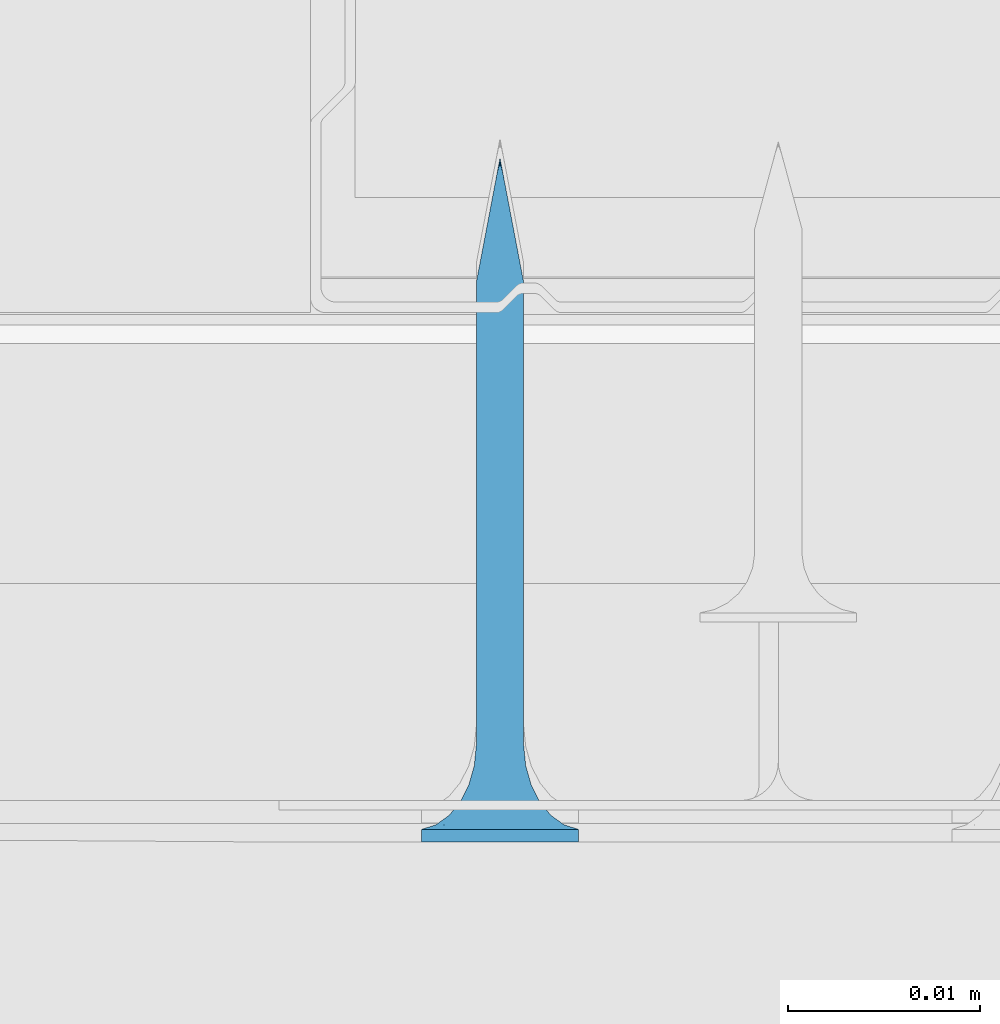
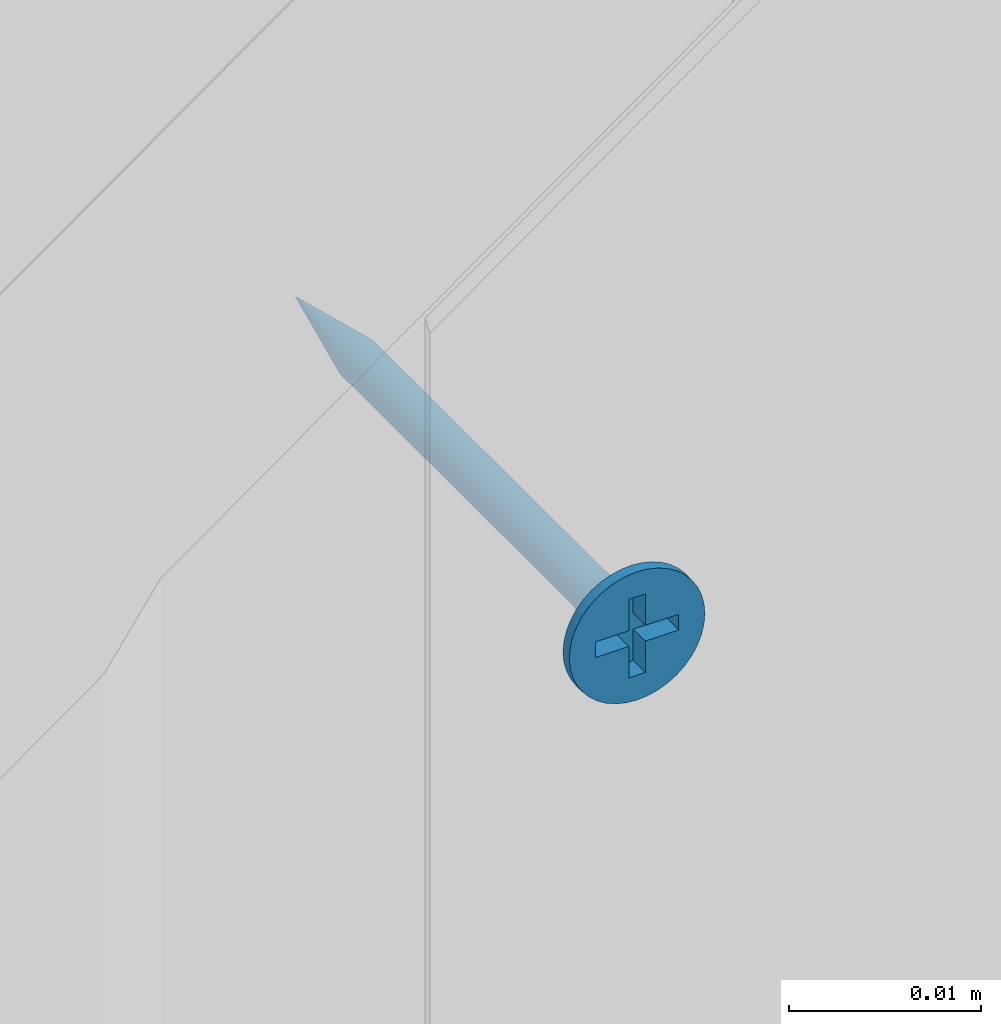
# One storey, part 19 of 37: 1 wall.
"""IFC2X3 building model written with IfcOpenShell, lengths in millimetres."""

from ifc_helpers import new_model, entity, si_unit, converted_unit, direction, frame, origin, origin_with_axes, place, context, project, spatial, faceted_brep, element, save


model = new_model("IFC2X3")

# Units and contexts
model_context = context("Model", 3, precision=1e-05, world=origin(), true_north=direction((0.0, 1.0, 0.0)))
ifc_project = project(units=[si_unit("LENGTHUNIT", "METRE", prefix="MILLI"), si_unit("AREAUNIT", "SQUARE_METRE"), si_unit("VOLUMEUNIT", "CUBIC_METRE"), converted_unit("PLANEANGLEUNIT", "DEGREE", entity("IfcPlaneAngleMeasure", 0.01745), si_unit("PLANEANGLEUNIT", "RADIAN"), dimensions=[0, 0, 0, 0, 0, 0, 0]), si_unit("SOLIDANGLEUNIT", "STERADIAN"), si_unit("MASSUNIT", "GRAM"), si_unit("TIMEUNIT", "SECOND"), si_unit("THERMODYNAMICTEMPERATUREUNIT", "DEGREE_CELSIUS"), si_unit("LUMINOUSINTENSITYUNIT", "LUMEN")], contexts=[model_context])

# Site, building, storey
site_placement = place(None, origin_with_axes())
site = spatial("IfcSite", under=ifc_project, at=site_placement, Name="Default Site", CompositionType="ELEMENT")
building_placement = place(site_placement, origin_with_axes())
building = spatial("IfcBuilding", under=site, at=building_placement, Name="Default Building", CompositionType="ELEMENT")
storey_placement = place(building_placement, origin_with_axes())
storey = spatial("IfcBuildingStorey", under=building, at=storey_placement, Name="Default Building Storey", CompositionType="ELEMENT", Elevation=0.0)

# Wall
wall_placement = place(storey_placement, frame((2770.206542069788, 6778.478129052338, 103.0621105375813), z_axis=(0.0, 0.0, 1.0), x_axis=(1.0, 4.718447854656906e-16, 0.0)))
element("IfcWall", 1, at=wall_placement, inside=storey, Name="Wkręt RIGIPS TN 35", context=model_context, shape_type="Brep", body=[
    faceted_brep([(-141.5377463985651, -4832.598051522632, 555.8000000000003), (-141.5377463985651, -4833.259713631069, 555.8000000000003), (-141.4875329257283, -4833.259713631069, 555.1619773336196), (-141.4875329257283, -4832.598051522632, 555.1619773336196), (-141.3381289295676, -4833.259713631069, 554.5396649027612), (-141.3381289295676, -4832.598051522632, 554.5396649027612), (-141.0932132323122, -4833.259713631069, 553.9483861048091), (-141.0932132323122, -4832.598051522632, 553.9483861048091), (-140.7588164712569, -4833.259713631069, 553.4027001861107), (-140.7588164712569, -4832.598051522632, 553.4027001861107), (-140.3431726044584, -4833.259713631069, 552.9160437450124), (-140.4541727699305, -4832.598051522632, 553.0314907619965), (-140.1080097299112, -4832.598051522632, 552.6986614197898), (-139.8565161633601, -4833.259713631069, 552.5003998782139), (-139.7251262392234, -4832.598051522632, 552.4088262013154), (-139.3108302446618, -4833.259713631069, 552.1660031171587), (-139.3108302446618, -4832.598051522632, 552.1660031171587), (-138.8708651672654, -4832.598051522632, 551.9735584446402), (-138.7195514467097, -4833.259713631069, 551.9210874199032), (-138.4113302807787, -4832.598051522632, 551.8341600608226), (-137.9385961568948, -4832.598051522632, 551.7497404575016), (-138.0972390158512, -4833.259713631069, 551.7716834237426), (-137.4592163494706, -4833.259713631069, 551.7214699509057), (-137.4592163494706, -4832.598051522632, 551.7214699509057), (-136.8211936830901, -4833.259713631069, 551.7716834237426), (-136.8211936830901, -4832.598051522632, 551.7716834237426), (-136.1988812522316, -4833.259713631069, 551.9210874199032), (-136.1988812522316, -4832.598051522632, 551.9210874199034), (-135.6076024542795, -4833.259713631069, 552.1660031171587), (-135.6076024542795, -4832.598051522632, 552.1660031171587), (-135.0619165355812, -4833.259713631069, 552.5003998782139), (-135.0619165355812, -4832.598051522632, 552.5003998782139), (-134.5752600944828, -4833.259713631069, 552.9160437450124), (-134.5752600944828, -4832.598051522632, 552.9160437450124), (-134.1596162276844, -4833.259713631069, 553.4027001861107), (-134.1596162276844, -4832.598051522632, 553.4027001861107), (-133.8252194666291, -4833.259713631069, 553.9483861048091), (-133.8252194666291, -4832.598051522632, 553.9483861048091), (-133.5803037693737, -4833.259713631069, 554.5396649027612), (-133.5803037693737, -4832.598051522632, 554.5396649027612), (-133.430899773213, -4833.259713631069, 556.4380226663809), (-133.430899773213, -4832.598051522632, 556.4380226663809), (-133.3806863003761, -4832.598051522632, 555.8000000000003), (-133.3806863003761, -4833.259713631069, 555.8000000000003), (-133.430899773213, -4832.598051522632, 555.1619773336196), (-133.430899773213, -4833.259713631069, 555.1619773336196), (-133.5803037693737, -4833.259713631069, 557.0603350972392), (-133.5803037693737, -4832.598051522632, 557.0603350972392), (-133.8252194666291, -4833.259713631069, 557.6516138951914), (-133.8252194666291, -4832.598051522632, 557.6516138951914), (-134.1596162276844, -4833.259713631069, 558.1972998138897), (-134.1596162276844, -4832.598051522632, 558.1972998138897), (-134.5752600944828, -4833.259713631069, 558.683956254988), (-134.5752600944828, -4832.598051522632, 558.683956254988), (-135.0619165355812, -4833.259713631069, 559.0996001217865), (-135.0619165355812, -4832.598051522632, 559.0996001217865), (-135.6076024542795, -4833.259713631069, 559.4339968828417), (-135.6076024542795, -4832.598051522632, 559.4339968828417), (-136.1988812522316, -4833.259713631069, 559.6789125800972), (-136.1988812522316, -4832.598051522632, 559.6789125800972), (-136.8211936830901, -4833.259713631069, 559.8283165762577), (-136.8211936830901, -4832.598051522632, 559.8283165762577), (-137.4592163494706, -4833.259713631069, 559.8785300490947), (-137.4592163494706, -4832.598051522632, 559.8785300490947), (-138.0972390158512, -4833.259713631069, 559.8283165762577), (-138.0972390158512, -4832.598051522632, 559.8283165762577), (-138.7195514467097, -4833.259713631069, 559.6789125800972), (-138.7195514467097, -4832.598051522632, 559.6789125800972), (-139.3108302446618, -4833.259713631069, 559.4339968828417), (-139.3108302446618, -4832.598051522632, 559.4339968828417), (-139.8565161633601, -4833.259713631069, 559.0996001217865), (-139.8565161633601, -4832.598051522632, 559.0996001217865), (-140.3431726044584, -4833.259713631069, 558.683956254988), (-140.3431726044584, -4832.598051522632, 558.683956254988), (-140.7588164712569, -4833.259713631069, 558.1972998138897), (-140.7588164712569, -4832.598051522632, 558.1972998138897), (-141.0932132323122, -4833.259713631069, 557.6516138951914), (-141.0932132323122, -4832.598051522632, 557.6516138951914), (-141.3381289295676, -4833.259713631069, 557.0603350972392), (-141.3381289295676, -4832.598051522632, 557.0603350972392), (-141.4875329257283, -4833.259713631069, 556.4380226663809), (-141.4875329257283, -4832.598051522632, 556.4380226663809), (-137.8060615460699, -4829.281368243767, 554.5055560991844), (-137.4592163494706, -4828.206294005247, 554.5693795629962), (-137.651727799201, -4828.206294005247, 554.5845305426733), (-137.4592163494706, -4829.281368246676, 554.4598930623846), (-137.83949897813, -4828.206294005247, 554.6296104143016), (-138.1292698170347, -4829.281368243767, 554.639433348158), (-138.0179063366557, -4828.206294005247, 554.7035091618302), (-138.1825568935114, -4828.206294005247, 554.804407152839), (-138.4068150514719, -4829.281368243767, 554.8524012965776), (-138.329396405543, -4828.206294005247, 554.929819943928), (-138.6197830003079, -4829.281368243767, 555.1299465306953), (-138.4548091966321, -4828.206294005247, 555.0766594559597), (-138.5557071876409, -4828.206294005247, 555.2413100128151), (-138.7536602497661, -4829.281368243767, 555.4531548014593), (-138.6296059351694, -4828.206294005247, 555.4197173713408), (-138.6746858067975, -4828.206294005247, 555.60748855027), (-138.7993232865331, -4829.281368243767, 555.7999999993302), (-138.6898367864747, -4828.206294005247, 555.8000000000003), (-138.753660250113, -4829.281368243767, 556.1468451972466), (-138.6746858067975, -4828.206294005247, 555.9925114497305), (-138.6296059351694, -4828.206294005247, 556.1802826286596), (-138.6197830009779, -4829.281368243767, 556.4700534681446), (-138.5557071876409, -4828.206294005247, 556.3586899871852), (-138.4548091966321, -4828.206294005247, 556.5233405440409), (-138.4068150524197, -4829.281368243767, 556.7475987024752), (-138.329396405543, -4828.206294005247, 556.6701800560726), (-138.1292698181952, -4829.281368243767, 556.9605666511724), (-138.1825568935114, -4828.206294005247, 556.7955928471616), (-138.0179063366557, -4828.206294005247, 556.8964908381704), (-137.8060615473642, -4829.281368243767, 557.0944439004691), (-137.83949897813, -4828.206294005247, 556.9703895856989), (-137.651727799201, -4828.206294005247, 557.0154694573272), (-137.4592163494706, -4829.281368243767, 557.1401069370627), (-137.4592163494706, -4828.206294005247, 557.0306204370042), (-137.112371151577, -4829.281368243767, 557.0944439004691), (-137.2667048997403, -4828.206294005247, 557.0154694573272), (-137.0789337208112, -4828.206294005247, 556.9703895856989), (-136.7891628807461, -4829.281368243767, 556.9605666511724), (-136.9005263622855, -4828.206294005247, 556.8964908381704), (-136.7358758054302, -4828.206294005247, 556.7955928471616), (-136.5116176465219, -4829.281368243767, 556.7475987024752), (-136.5890362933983, -4828.206294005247, 556.6701800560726), (-136.2986496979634, -4829.281368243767, 556.4700534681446), (-136.4636235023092, -4828.206294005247, 556.5233405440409), (-136.3627255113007, -4828.206294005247, 556.3586899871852), (-136.1647724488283, -4829.281368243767, 556.1468451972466), (-136.2888267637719, -4828.206294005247, 556.1802826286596), (-136.2437468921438, -4828.206294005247, 555.9925114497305), (-136.1191094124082, -4829.281368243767, 555.7999999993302), (-136.2285959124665, -4828.206294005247, 555.8000000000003), (-136.1647724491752, -4829.281368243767, 555.4531548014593), (-136.2437468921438, -4828.206294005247, 555.60748855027), (-136.2888267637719, -4828.206294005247, 555.4197173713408), (-136.2986496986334, -4829.281368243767, 555.1299465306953), (-136.3627255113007, -4828.206294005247, 555.2413100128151), (-136.4636235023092, -4828.206294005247, 555.0766594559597), (-136.5116176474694, -4829.281368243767, 554.8524012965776), (-136.5890362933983, -4828.206294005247, 554.929819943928), (-136.7891628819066, -4829.281368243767, 554.639433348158), (-136.7358758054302, -4828.206294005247, 554.804407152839), (-136.9005263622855, -4828.206294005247, 554.7035091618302), (-137.1123711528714, -4829.281368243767, 554.5055560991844), (-137.0789337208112, -4828.206294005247, 554.6296104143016), (-137.2667048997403, -4828.206294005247, 554.5845305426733), (-137.4592163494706, -4830.288222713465, 554.1737111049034), (-137.8801308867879, -4830.288222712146, 554.229125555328), (-138.2723607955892, -4830.288222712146, 554.3915925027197), (-138.6091762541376, -4830.288222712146, 554.6500400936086), (-138.8676238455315, -4830.288222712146, 554.9868555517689), (-139.0300907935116, -4830.288222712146, 555.3790854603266), (-139.0855052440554, -4830.288222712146, 555.7999999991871), (-139.0300907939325, -4830.288222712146, 556.2209145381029), (-138.8676238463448, -4830.288222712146, 556.6131444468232), (-138.6091762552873, -4830.288222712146, 556.9499599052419), (-138.2723607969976, -4830.288222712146, 557.2084074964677), (-137.8801308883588, -4830.288222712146, 557.3708744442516), (-137.4592163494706, -4830.288222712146, 557.426288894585), (-137.0383018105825, -4830.288222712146, 557.3708744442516), (-136.6460719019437, -4830.288222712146, 557.2084074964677), (-136.309256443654, -4830.288222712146, 556.9499599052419), (-136.0508088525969, -4830.288222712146, 556.6131444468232), (-135.8883419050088, -4830.288222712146, 556.2209145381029), (-135.8329274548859, -4830.288222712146, 555.7999999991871), (-135.8883419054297, -4830.288222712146, 555.3790854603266), (-136.0508088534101, -4830.288222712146, 554.9868555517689), (-136.309256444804, -4830.288222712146, 554.6500400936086), (-136.6460719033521, -4830.288222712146, 554.3915925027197), (-137.0383018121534, -4830.288222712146, 554.229125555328), (-137.4592163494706, -4831.168773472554, 553.7273431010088), (-137.9956594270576, -4831.168773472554, 553.7979671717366), (-138.4955447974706, -4831.168773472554, 554.005026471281), (-138.9248060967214, -4831.168773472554, 554.3344102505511), (-139.2541898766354, -4831.168773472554, 554.7636715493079), (-139.4612491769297, -4831.168773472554, 555.2635569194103), (-139.5318732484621, -4831.168773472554, 555.7999999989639), (-139.461249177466, -4831.168773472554, 556.3364430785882), (-139.2541898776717, -4831.168773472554, 556.8363284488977), (-138.9248060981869, -4831.168773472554, 557.2655897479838), (-138.4955447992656, -4831.168773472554, 557.594973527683), (-137.9956594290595, -4831.168773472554, 557.8020328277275), (-137.4592163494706, -4831.168773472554, 557.8726568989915), (-136.9227732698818, -4831.168773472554, 557.8020328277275), (-136.4228878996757, -4831.168773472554, 557.594973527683), (-135.9936266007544, -4831.168773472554, 557.2655897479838), (-135.6642428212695, -4831.168773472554, 556.8363284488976), (-135.4571835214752, -4831.168773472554, 556.3364430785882), (-135.3865594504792, -4831.168773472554, 555.7999999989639), (-135.4571835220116, -4831.168773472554, 555.2635569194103), (-135.6642428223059, -4831.168773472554, 554.7636715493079), (-135.9936266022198, -4831.168773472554, 554.3344102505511), (-136.4228879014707, -4831.168773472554, 554.005026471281), (-136.9227732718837, -4831.168773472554, 553.7979671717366), (-137.4592163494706, -4831.872222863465, 553.1465393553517), (-138.1459824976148, -4831.872222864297, 553.2369538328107), (-138.7859466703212, -4831.872222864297, 553.5020356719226), (-139.3354963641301, -4831.872222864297, 553.9237199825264), (-139.7571806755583, -4831.872222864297, 554.4732696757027), (-140.02226251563, -4831.872222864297, 555.1132338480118), (-140.1126769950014, -4831.872222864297, 555.7999999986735), (-140.0222625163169, -4831.872222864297, 556.4867661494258), (-139.7571806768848, -4831.872222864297, 557.1267303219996), (-139.3354963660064, -4831.872222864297, 557.6762800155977), (-138.785946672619, -4831.872222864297, 558.0979643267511), (-138.1459825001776, -4831.872222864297, 558.3630461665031), (-137.4592163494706, -4831.872222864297, 558.4534606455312), (-136.7724501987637, -4831.872222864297, 558.3630461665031), (-136.1324860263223, -4831.872222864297, 558.0979643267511), (-135.5829363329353, -4831.872222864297, 557.6762800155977), (-135.1612520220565, -4831.872222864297, 557.1267303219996), (-134.8961701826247, -4831.872222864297, 556.4867661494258), (-134.8057557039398, -4831.872222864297, 555.7999999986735), (-134.8961701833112, -4831.872222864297, 555.1132338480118), (-135.161252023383, -4831.872222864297, 554.4732696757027), (-135.5829363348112, -4831.872222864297, 553.9237199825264), (-136.1324860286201, -4831.872222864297, 553.5020356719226), (-136.7724502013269, -4831.872222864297, 553.2369538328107), (-137.4592163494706, -4832.357989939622, 552.4648055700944), (-138.3224281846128, -4832.357989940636, 552.578449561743), (-139.1268135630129, -4832.357989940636, 552.9116368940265), (-139.8175549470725, -4832.357989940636, 553.4416613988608), (-140.3475794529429, -4832.357989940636, 554.1324027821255), (-140.6807667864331, -4832.357989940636, 554.9367881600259), (-140.7944107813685, -4832.357989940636, 555.7999999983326), (-140.6807667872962, -4832.357989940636, 556.6632118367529), (-140.3475794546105, -4832.357989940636, 557.4675972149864), (-139.817554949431, -4832.357989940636, 558.1583385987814), (-139.1268135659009, -4832.357989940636, 558.6883631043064), (-138.3224281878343, -4832.357989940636, 559.0215504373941), (-137.4592163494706, -4832.357989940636, 559.1351944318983), (-136.5960045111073, -4832.357989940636, 559.0215504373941), (-135.7916191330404, -4832.357989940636, 558.6883631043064), (-135.1008777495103, -4832.357989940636, 558.1583385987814), (-134.5708532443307, -4832.357989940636, 557.4675972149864), (-134.2376659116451, -4832.357989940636, 556.6632118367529), (-134.1240219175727, -4832.357989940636, 555.7999999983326), (-134.2376659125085, -4832.357989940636, 554.9367881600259), (-134.5708532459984, -4832.357989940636, 554.1324027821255), (-135.1008777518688, -4832.357989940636, 553.4416613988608), (-135.7916191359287, -4832.357989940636, 552.9116368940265), (-136.5960045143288, -4832.357989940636, 552.578449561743), (-138.6898367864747, -4804.093757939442, 555.8000000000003), (-138.6746858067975, -4804.093757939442, 555.60748855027), (-138.6296059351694, -4804.093757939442, 555.4197173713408), (-138.5557071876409, -4804.093757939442, 555.2413100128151), (-138.4548091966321, -4804.093757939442, 555.0766594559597), (-138.329396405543, -4804.093757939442, 554.929819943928), (-138.1825568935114, -4804.093757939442, 554.804407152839), (-138.0179063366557, -4804.093757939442, 554.7035091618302), (-137.83949897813, -4804.093757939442, 554.6296104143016), (-137.651727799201, -4804.093757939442, 554.5845305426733), (-137.4592163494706, -4804.093757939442, 554.5693795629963), (-137.2667048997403, -4804.093757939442, 554.5845305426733), (-137.0789337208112, -4804.093757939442, 554.6296104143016), (-136.9005263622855, -4804.093757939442, 554.7035091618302), (-136.7358758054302, -4804.093757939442, 554.804407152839), (-136.5890362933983, -4804.093757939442, 554.929819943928), (-136.4636235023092, -4804.093757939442, 555.0766594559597), (-136.3627255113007, -4804.093757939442, 555.2413100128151), (-136.2888267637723, -4804.093757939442, 555.4197173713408), (-136.2437468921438, -4804.093757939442, 555.9925114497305), (-136.2285959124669, -4804.093757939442, 555.8000000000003), (-136.2437468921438, -4804.093757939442, 555.60748855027), (-136.2888267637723, -4804.093757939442, 556.1802826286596), (-136.3627255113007, -4804.093757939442, 556.3586899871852), (-136.4636235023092, -4804.093757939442, 556.5233405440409), (-136.5890362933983, -4804.093757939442, 556.6701800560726), (-136.7358758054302, -4804.093757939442, 556.7955928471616), (-136.9005263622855, -4804.093757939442, 556.8964908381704), (-137.0789337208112, -4804.093757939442, 556.9703895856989), (-137.2667048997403, -4804.093757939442, 557.0154694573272), (-137.4592163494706, -4804.093757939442, 557.0306204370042), (-137.651727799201, -4804.093757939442, 557.0154694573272), (-137.83949897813, -4804.093757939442, 556.9703895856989), (-138.0179063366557, -4804.093757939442, 556.8964908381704), (-138.1825568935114, -4804.093757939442, 556.7955928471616), (-138.329396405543, -4804.093757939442, 556.6701800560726), (-138.4548091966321, -4804.093757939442, 556.5233405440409), (-138.5557071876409, -4804.093757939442, 556.3586899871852), (-138.6296059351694, -4804.093757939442, 556.1802826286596), (-138.6746858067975, -4804.093757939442, 555.9925114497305), (-137.4592163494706, -4797.627063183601, 555.8000000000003), (-139.9592163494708, -4833.259713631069, 556.3000000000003), (-137.9592163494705, -4833.259713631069, 556.3000000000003), (-139.9592163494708, -4833.259713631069, 555.3000000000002), (-137.9592163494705, -4833.259713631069, 555.3000000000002), (-137.9592163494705, -4833.259713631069, 553.3000000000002), (-136.9592163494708, -4833.259713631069, 553.3000000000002), (-136.9592163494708, -4833.259713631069, 555.3000000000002), (-134.9592163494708, -4833.259713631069, 555.3000000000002), (-134.9592163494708, -4833.259713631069, 556.3000000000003), (-136.9592163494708, -4833.259713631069, 556.3000000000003), (-136.9592163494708, -4833.259713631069, 558.3000000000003), (-137.9592163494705, -4833.259713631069, 558.3000000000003), (-136.9592163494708, -4831.988379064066, 556.3000000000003), (-134.9592163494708, -4831.988379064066, 556.3000000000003), (-134.9592163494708, -4831.988379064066, 555.3000000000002), (-136.9592163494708, -4831.988379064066, 555.3000000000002), (-136.9592163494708, -4831.988379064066, 553.3000000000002), (-137.9592163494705, -4831.988379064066, 553.3000000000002), (-137.9592163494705, -4831.988379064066, 555.3000000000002), (-139.9592163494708, -4831.988379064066, 555.3000000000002), (-139.9592163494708, -4831.988379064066, 556.3000000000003), (-137.9592163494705, -4831.988379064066, 556.3000000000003), (-137.9592163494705, -4831.988379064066, 558.3000000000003), (-136.9592163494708, -4831.988379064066, 558.3000000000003)], [[[0, 1, 2, 3]], [[4, 5, 3, 2]], [[6, 7, 5, 4]], [[7, 6, 8, 9]], [[8, 10, 9]], [[10, 11, 9]], [[12, 11, 13]], [[11, 10, 13]], [[13, 14, 12]], [[13, 15, 14]], [[15, 16, 14]], [[17, 16, 18]], [[16, 15, 18]], [[18, 19, 17]], [[20, 19, 21]], [[19, 18, 21]], [[21, 22, 20]], [[22, 23, 20]], [[23, 22, 24, 25]], [[26, 27, 25, 24]], [[28, 29, 27, 26]], [[29, 28, 30, 31]], [[32, 33, 31, 30]], [[33, 32, 34, 35]], [[36, 37, 35, 34]], [[38, 39, 37, 36]], [[40, 41, 42, 43]], [[43, 42, 44, 45]], [[39, 38, 45, 44]], [[46, 47, 41, 40]], [[48, 49, 47, 46]], [[49, 48, 50, 51]], [[52, 53, 51, 50]], [[53, 52, 54, 55]], [[56, 57, 55, 54]], [[58, 59, 57, 56]], [[59, 58, 60, 61]], [[62, 63, 61, 60]], [[63, 62, 64, 65]], [[66, 67, 65, 64]], [[68, 69, 67, 66]], [[69, 68, 70, 71]], [[72, 73, 71, 70]], [[73, 72, 74, 75]], [[76, 77, 75, 74]], [[78, 79, 77, 76]], [[79, 78, 80, 81]], [[1, 0, 81, 80]], [[82, 83, 84]], [[82, 85, 83]], [[84, 86, 82]], [[82, 86, 87]], [[88, 87, 86]], [[87, 88, 89]], [[89, 90, 87]], [[89, 91, 90]], [[92, 91, 93]], [[92, 90, 91]], [[93, 94, 92]], [[92, 94, 95]], [[96, 95, 94]], [[95, 96, 97]], [[97, 98, 95]], [[97, 99, 98]], [[100, 99, 101]], [[100, 98, 99]], [[101, 102, 100]], [[100, 102, 103]], [[104, 103, 102]], [[103, 104, 105]], [[105, 106, 103]], [[105, 107, 106]], [[108, 107, 109]], [[108, 106, 107]], [[109, 110, 108]], [[108, 110, 111]], [[112, 111, 110]], [[111, 112, 113]], [[113, 114, 111]], [[113, 115, 114]], [[116, 115, 117]], [[116, 114, 115]], [[117, 118, 116]], [[116, 118, 119]], [[120, 119, 118]], [[119, 120, 121]], [[121, 122, 119]], [[121, 123, 122]], [[124, 123, 125]], [[124, 122, 123]], [[125, 126, 124]], [[124, 126, 127]], [[128, 127, 126]], [[127, 128, 129]], [[129, 130, 127]], [[129, 131, 130]], [[132, 131, 133]], [[132, 130, 131]], [[133, 134, 132]], [[132, 134, 135]], [[136, 135, 134]], [[135, 136, 137]], [[137, 138, 135]], [[137, 139, 138]], [[140, 139, 141]], [[140, 138, 139]], [[141, 142, 140]], [[140, 142, 143]], [[144, 143, 142]], [[143, 144, 145]], [[145, 85, 143]], [[145, 83, 85]], [[146, 85, 147]], [[82, 147, 85]], [[87, 148, 147, 82]], [[90, 149, 148, 87]], [[92, 150, 149, 90]], [[95, 151, 150, 92]], [[98, 152, 151, 95]], [[100, 153, 152, 98]], [[103, 154, 153, 100]], [[106, 155, 154, 103]], [[108, 156, 155, 106]], [[111, 157, 156, 108]], [[114, 158, 157, 111]], [[116, 159, 158, 114]], [[119, 160, 159, 116]], [[122, 161, 160, 119]], [[124, 162, 161, 122]], [[127, 163, 162, 124]], [[130, 164, 163, 127]], [[132, 165, 164, 130]], [[135, 166, 165, 132]], [[138, 167, 166, 135]], [[140, 168, 167, 138]], [[143, 169, 168, 140]], [[143, 85, 169]], [[146, 169, 85]], [[170, 146, 171]], [[147, 171, 146]], [[148, 172, 171, 147]], [[149, 173, 172, 148]], [[150, 174, 173, 149]], [[151, 175, 174, 150]], [[152, 176, 175, 151]], [[153, 177, 176, 152]], [[154, 178, 177, 153]], [[155, 179, 178, 154]], [[156, 180, 179, 155]], [[157, 181, 180, 156]], [[158, 182, 181, 157]], [[159, 183, 182, 158]], [[160, 184, 183, 159]], [[161, 185, 184, 160]], [[162, 186, 185, 161]], [[163, 187, 186, 162]], [[164, 188, 187, 163]], [[165, 189, 188, 164]], [[166, 190, 189, 165]], [[167, 191, 190, 166]], [[168, 192, 191, 167]], [[169, 193, 192, 168]], [[169, 146, 193]], [[170, 193, 146]], [[194, 170, 195]], [[171, 195, 170]], [[172, 196, 195, 171]], [[173, 197, 196, 172]], [[174, 198, 197, 173]], [[175, 199, 198, 174]], [[176, 200, 199, 175]], [[177, 201, 200, 176]], [[178, 202, 201, 177]], [[179, 203, 202, 178]], [[180, 204, 203, 179]], [[181, 205, 204, 180]], [[182, 206, 205, 181]], [[183, 207, 206, 182]], [[184, 208, 207, 183]], [[185, 209, 208, 184]], [[186, 210, 209, 185]], [[187, 211, 210, 186]], [[188, 212, 211, 187]], [[189, 213, 212, 188]], [[190, 214, 213, 189]], [[191, 215, 214, 190]], [[192, 216, 215, 191]], [[193, 217, 216, 192]], [[193, 170, 217]], [[194, 217, 170]], [[218, 19, 20]], [[218, 219, 19]], [[20, 23, 218]], [[218, 194, 219]], [[195, 219, 194]], [[219, 16, 17]], [[219, 220, 16]], [[17, 19, 219]], [[196, 220, 219, 195]], [[221, 11, 12]], [[220, 12, 14]], [[220, 221, 12]], [[14, 16, 220]], [[197, 221, 220, 196]], [[222, 7, 9]], [[9, 221, 222]], [[9, 11, 221]], [[198, 222, 221, 197]], [[5, 7, 223]], [[222, 223, 7]], [[199, 223, 222, 198]], [[223, 0, 3]], [[223, 224, 0]], [[3, 5, 223]], [[200, 224, 223, 199]], [[225, 79, 81]], [[81, 224, 225]], [[81, 0, 224]], [[201, 225, 224, 200]], [[225, 226, 77, 79]], [[202, 226, 225, 201]], [[226, 73, 75]], [[226, 227, 73]], [[75, 77, 226]], [[203, 227, 226, 202]], [[228, 69, 71]], [[71, 227, 228]], [[71, 73, 227]], [[204, 228, 227, 203]], [[228, 229, 67, 69]], [[205, 229, 228, 204]], [[229, 63, 65]], [[229, 230, 63]], [[65, 67, 229]], [[206, 230, 229, 205]], [[231, 59, 61]], [[61, 230, 231]], [[61, 63, 230]], [[207, 231, 230, 206]], [[231, 232, 57, 59]], [[208, 232, 231, 207]], [[232, 53, 55]], [[232, 233, 53]], [[55, 57, 232]], [[209, 233, 232, 208]], [[234, 49, 51]], [[51, 233, 234]], [[51, 53, 233]], [[210, 234, 233, 209]], [[234, 235, 47, 49]], [[211, 235, 234, 210]], [[235, 42, 41]], [[235, 236, 42]], [[41, 47, 235]], [[212, 236, 235, 211]], [[237, 39, 44]], [[44, 236, 237]], [[44, 42, 236]], [[213, 237, 236, 212]], [[37, 39, 238]], [[237, 238, 39]], [[214, 238, 237, 213]], [[238, 33, 35]], [[238, 239, 33]], [[35, 37, 238]], [[215, 239, 238, 214]], [[240, 29, 31]], [[31, 239, 240]], [[31, 33, 239]], [[216, 240, 239, 215]], [[27, 29, 241]], [[240, 241, 29]], [[217, 241, 240, 216]], [[217, 194, 241]], [[218, 241, 194]], [[241, 23, 25]], [[241, 218, 23]], [[25, 27, 241]], [[242, 99, 97, 243]], [[96, 244, 243, 97]], [[94, 245, 244, 96]], [[245, 94, 93, 246]], [[91, 247, 246, 93]], [[247, 91, 89, 248]], [[88, 249, 248, 89]], [[86, 250, 249, 88]], [[250, 86, 84, 251]], [[83, 252, 251, 84]], [[252, 83, 145, 253]], [[144, 254, 253, 145]], [[142, 255, 254, 144]], [[255, 142, 141, 256]], [[139, 257, 256, 141]], [[257, 139, 137, 258]], [[136, 259, 258, 137]], [[134, 260, 259, 136]], [[129, 261, 262, 131]], [[131, 262, 263, 133]], [[260, 134, 133, 263]], [[128, 264, 261, 129]], [[126, 265, 264, 128]], [[265, 126, 125, 266]], [[123, 267, 266, 125]], [[267, 123, 121, 268]], [[120, 269, 268, 121]], [[118, 270, 269, 120]], [[270, 118, 117, 271]], [[115, 272, 271, 117]], [[272, 115, 113, 273]], [[112, 274, 273, 113]], [[110, 275, 274, 112]], [[275, 110, 109, 276]], [[107, 277, 276, 109]], [[277, 107, 105, 278]], [[104, 279, 278, 105]], [[102, 280, 279, 104]], [[280, 102, 101, 281]], [[99, 242, 281, 101]], [[243, 244, 282]], [[282, 242, 243]], [[244, 245, 282]], [[246, 247, 282]], [[282, 245, 246]], [[248, 249, 282]], [[282, 247, 248]], [[249, 250, 282]], [[251, 252, 282]], [[282, 250, 251]], [[253, 254, 282]], [[282, 252, 253]], [[254, 255, 282]], [[256, 257, 282]], [[282, 255, 256]], [[258, 259, 282]], [[282, 257, 258]], [[259, 260, 282]], [[263, 262, 282]], [[282, 260, 263]], [[261, 264, 282]], [[282, 262, 261]], [[264, 265, 282]], [[266, 267, 282]], [[282, 265, 266]], [[268, 269, 282]], [[282, 267, 268]], [[269, 270, 282]], [[271, 272, 282]], [[282, 270, 271]], [[273, 274, 282]], [[282, 272, 273]], [[274, 275, 282]], [[276, 277, 282]], [[282, 275, 276]], [[278, 279, 282]], [[282, 277, 278]], [[279, 280, 282]], [[281, 242, 282]], [[282, 280, 281]], [[283, 76, 74, 284]], [[283, 285, 286, 287, 288, 289, 290, 291, 292, 293, 294, 284, 74, 72, 70, 68, 66, 64, 62, 60, 58, 56, 54, 52, 50, 48, 46, 40, 43, 45, 38, 36, 34, 32, 30, 28, 26, 24, 22, 21, 18, 15, 13, 10, 8, 6, 4, 2, 1, 80, 78, 76]], [[295, 296, 297, 298, 299, 300, 301, 302, 303, 304, 305, 306]], [[297, 290, 289, 298]], [[296, 291, 290, 297]], [[295, 292, 291, 296]], [[306, 293, 292, 295]], [[305, 294, 293, 306]], [[304, 284, 294, 305]], [[303, 283, 284, 304]], [[302, 285, 283, 303]], [[301, 286, 285, 302]], [[300, 287, 286, 301]], [[299, 288, 287, 300]], [[298, 289, 288, 299]]]),
])

save(model, "model.ifc")
